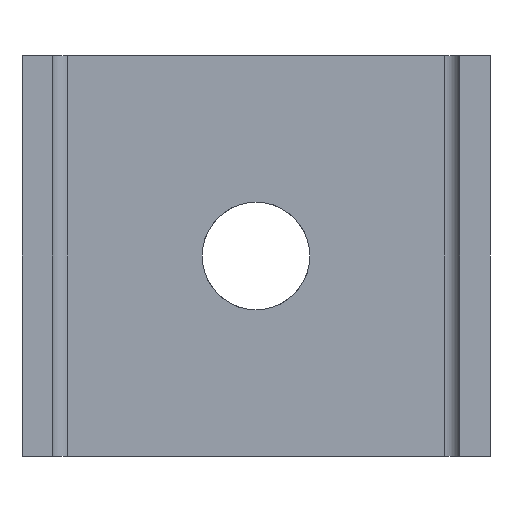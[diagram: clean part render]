
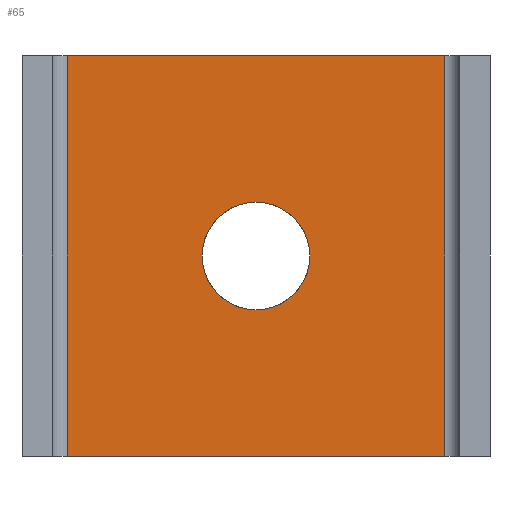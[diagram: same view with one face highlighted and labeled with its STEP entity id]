
A CAD part, front view. The second image highlights one B-rep face of the part: STEP entity #65.
In plain terms, the highlighted planar face has unit normal (0, -1, 0).
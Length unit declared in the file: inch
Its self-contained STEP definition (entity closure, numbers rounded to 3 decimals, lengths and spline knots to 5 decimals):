
#65=ADVANCED_FACE('',(#130,#131),#132,.T.);
#130=FACE_BOUND('',#235,.T.);
#131=FACE_OUTER_BOUND('',#236,.T.);
#132=PLANE('',#237);
#235=EDGE_LOOP('',(#358,#359,#360,#361));
#236=EDGE_LOOP('',(#362,#363,#364,#365));
#237=AXIS2_PLACEMENT_3D('',#366,#367,#368);
#358=ORIENTED_EDGE('',*,*,#475,.T.);
#359=ORIENTED_EDGE('',*,*,#448,.T.);
#360=ORIENTED_EDGE('',*,*,#460,.T.);
#361=ORIENTED_EDGE('',*,*,#463,.T.);
#362=ORIENTED_EDGE('',*,*,#457,.T.);
#363=ORIENTED_EDGE('',*,*,#428,.F.);
#364=ORIENTED_EDGE('',*,*,#470,.F.);
#365=ORIENTED_EDGE('',*,*,#440,.T.);
#366=CARTESIAN_POINT('',(0.88923,0.34935,0.0));
#367=DIRECTION('',(0.0,-1.0,0.0));
#368=DIRECTION('',(1.0,0.0,-0.0));
#428=EDGE_CURVE('',#501,#496,#503,.T.);
#440=EDGE_CURVE('',#525,#523,#526,.T.);
#448=EDGE_CURVE('',#537,#538,#539,.T.);
#457=EDGE_CURVE('',#523,#496,#551,.T.);
#460=EDGE_CURVE('',#538,#554,#555,.T.);
#463=EDGE_CURVE('',#554,#558,#559,.T.);
#470=EDGE_CURVE('',#525,#501,#568,.T.);
#475=EDGE_CURVE('',#558,#537,#574,.T.);
#496=VERTEX_POINT('',#599);
#501=VERTEX_POINT('',#608);
#503=LINE('',#613,#614);
#523=VERTEX_POINT('',#650);
#525=VERTEX_POINT('',#655);
#526=LINE('',#656,#657);
#537=VERTEX_POINT('',#679);
#538=VERTEX_POINT('',#680);
#539=B_SPLINE_CURVE_WITH_KNOTS('',3,(#681,#682,#683,#684),.UNSPECIFIED.,.F.,.F.,(4,4),(0.0,1.0),.UNSPECIFIED.);
#551=LINE('',#705,#706);
#554=VERTEX_POINT('',#710);
#555=B_SPLINE_CURVE_WITH_KNOTS('',3,(#711,#712,#713,#714),.UNSPECIFIED.,.F.,.F.,(4,4),(0.0,1.0),.UNSPECIFIED.);
#558=VERTEX_POINT('',#718);
#559=B_SPLINE_CURVE_WITH_KNOTS('',3,(#719,#720,#721,#722),.UNSPECIFIED.,.F.,.F.,(4,4),(0.0,1.0),.UNSPECIFIED.);
#568=LINE('',#735,#736);
#574=B_SPLINE_CURVE_WITH_KNOTS('',3,(#747,#748,#749,#750),.UNSPECIFIED.,.F.,.F.,(4,4),(0.0,1.0),.UNSPECIFIED.);
#599=CARTESIAN_POINT('',(0.12231,0.34935,1.625));
#608=CARTESIAN_POINT('',(0.12231,0.34935,0.0));
#613=CARTESIAN_POINT('',(0.12231,0.34935,0.0));
#614=VECTOR('',#769,1.0);
#650=CARTESIAN_POINT('',(1.65615,0.34935,1.625));
#655=CARTESIAN_POINT('',(1.65615,0.34935,0.0));
#656=CARTESIAN_POINT('',(1.65615,0.34935,0.0));
#657=VECTOR('',#774,1.0);
#679=CARTESIAN_POINT('',(0.88923,0.34935,1.03125));
#680=CARTESIAN_POINT('',(1.10798,0.34935,0.8125));
#681=CARTESIAN_POINT('',(0.88923,0.34935,1.03125));
#682=CARTESIAN_POINT('',(1.01004,0.34935,1.03125));
#683=CARTESIAN_POINT('',(1.10798,0.34935,0.93331));
#684=CARTESIAN_POINT('',(1.10798,0.34935,0.8125));
#705=CARTESIAN_POINT('',(1.65615,0.34935,1.625));
#706=VECTOR('',#783,1.0);
#710=CARTESIAN_POINT('',(0.88923,0.34935,0.59375));
#711=CARTESIAN_POINT('',(1.10798,0.34935,0.8125));
#712=CARTESIAN_POINT('',(1.10798,0.34935,0.69169));
#713=CARTESIAN_POINT('',(1.01004,0.34935,0.59375));
#714=CARTESIAN_POINT('',(0.88923,0.34935,0.59375));
#718=CARTESIAN_POINT('',(0.67048,0.34935,0.8125));
#719=CARTESIAN_POINT('',(0.88923,0.34935,0.59375));
#720=CARTESIAN_POINT('',(0.76842,0.34935,0.59375));
#721=CARTESIAN_POINT('',(0.67048,0.34935,0.69169));
#722=CARTESIAN_POINT('',(0.67048,0.34935,0.8125));
#735=CARTESIAN_POINT('',(1.65615,0.34935,0.0));
#736=VECTOR('',#790,1.0);
#747=CARTESIAN_POINT('',(0.67048,0.34935,0.8125));
#748=CARTESIAN_POINT('',(0.67048,0.34935,0.93331));
#749=CARTESIAN_POINT('',(0.76842,0.34935,1.03125));
#750=CARTESIAN_POINT('',(0.88923,0.34935,1.03125));
#769=DIRECTION('',(0.0,0.0,1.0));
#774=DIRECTION('',(0.0,0.0,1.0));
#783=DIRECTION('',(-1.0,0.0,0.0));
#790=DIRECTION('',(-1.0,0.0,0.0));
